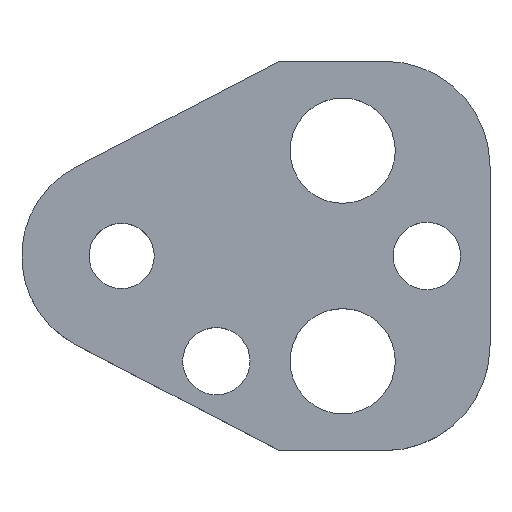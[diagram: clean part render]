
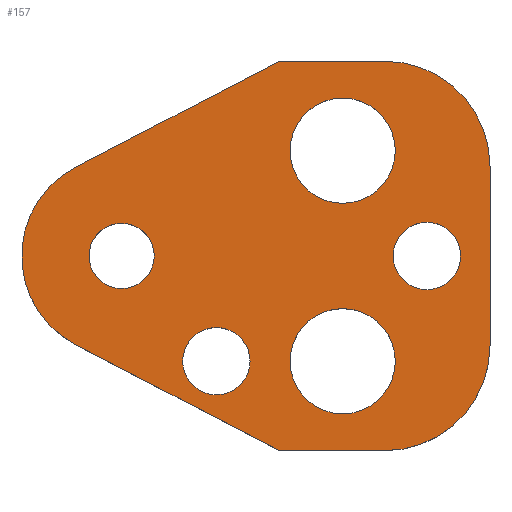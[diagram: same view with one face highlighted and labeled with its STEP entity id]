
A CAD part, top view. The second image highlights one B-rep face of the part: STEP entity #157.
In plain terms, the highlighted planar face has unit normal (0, 0, 1).
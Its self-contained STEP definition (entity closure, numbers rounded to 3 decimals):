
#103=FACE_BOUND('',#207,.T.);
#104=FACE_BOUND('',#208,.T.);
#105=FACE_BOUND('',#209,.T.);
#106=FACE_BOUND('',#210,.T.);
#107=FACE_BOUND('',#211,.T.);
#108=FACE_BOUND('',#212,.T.);
#122=CIRCLE('',#480,10.);
#124=CIRCLE('',#484,10.);
#127=CIRCLE('',#490,9.5);
#138=CIRCLE('',#503,3.2);
#139=CIRCLE('',#504,3.2);
#140=CIRCLE('',#505,5.);
#141=CIRCLE('',#506,5.);
#142=CIRCLE('',#507,5.);
#143=CIRCLE('',#508,5.);
#144=CIRCLE('',#509,3.2);
#145=CIRCLE('',#510,3.2);
#146=CIRCLE('',#511,3.1);
#147=CIRCLE('',#512,3.1);
#157=ADVANCED_FACE('',(#103,#104,#105,#106,#107,#108),#174,.T.);
#174=PLANE('',#513);
#207=EDGE_LOOP('',(#273,#274,#275,#276,#277,#278,#279,#280));
#208=EDGE_LOOP('',(#281,#282));
#209=EDGE_LOOP('',(#283,#284));
#210=EDGE_LOOP('',(#285,#286));
#211=EDGE_LOOP('',(#287,#288));
#212=EDGE_LOOP('',(#289,#290));
#273=ORIENTED_EDGE('',*,*,#368,.T.);
#274=ORIENTED_EDGE('',*,*,#372,.T.);
#275=ORIENTED_EDGE('',*,*,#375,.T.);
#276=ORIENTED_EDGE('',*,*,#378,.T.);
#277=ORIENTED_EDGE('',*,*,#381,.T.);
#278=ORIENTED_EDGE('',*,*,#384,.T.);
#279=ORIENTED_EDGE('',*,*,#387,.T.);
#280=ORIENTED_EDGE('',*,*,#390,.T.);
#281=ORIENTED_EDGE('',*,*,#401,.T.);
#282=ORIENTED_EDGE('',*,*,#402,.T.);
#283=ORIENTED_EDGE('',*,*,#403,.T.);
#284=ORIENTED_EDGE('',*,*,#404,.T.);
#285=ORIENTED_EDGE('',*,*,#405,.T.);
#286=ORIENTED_EDGE('',*,*,#406,.T.);
#287=ORIENTED_EDGE('',*,*,#407,.T.);
#288=ORIENTED_EDGE('',*,*,#408,.T.);
#289=ORIENTED_EDGE('',*,*,#409,.T.);
#290=ORIENTED_EDGE('',*,*,#410,.T.);
#332=VERTEX_POINT('',#649);
#333=VERTEX_POINT('',#651);
#336=VERTEX_POINT('',#658);
#338=VERTEX_POINT('',#664);
#340=VERTEX_POINT('',#670);
#342=VERTEX_POINT('',#676);
#344=VERTEX_POINT('',#682);
#346=VERTEX_POINT('',#688);
#357=VERTEX_POINT('',#717);
#358=VERTEX_POINT('',#718);
#359=VERTEX_POINT('',#721);
#360=VERTEX_POINT('',#722);
#361=VERTEX_POINT('',#725);
#362=VERTEX_POINT('',#726);
#363=VERTEX_POINT('',#729);
#364=VERTEX_POINT('',#730);
#365=VERTEX_POINT('',#733);
#366=VERTEX_POINT('',#734);
#368=EDGE_CURVE('',#333,#332,#422,.T.);
#372=EDGE_CURVE('',#332,#336,#426,.T.);
#375=EDGE_CURVE('',#336,#338,#122,.T.);
#378=EDGE_CURVE('',#338,#340,#430,.T.);
#381=EDGE_CURVE('',#340,#342,#124,.T.);
#384=EDGE_CURVE('',#342,#344,#434,.T.);
#387=EDGE_CURVE('',#344,#346,#437,.T.);
#390=EDGE_CURVE('',#346,#333,#127,.T.);
#401=EDGE_CURVE('',#357,#358,#138,.T.);
#402=EDGE_CURVE('',#358,#357,#139,.T.);
#403=EDGE_CURVE('',#359,#360,#140,.T.);
#404=EDGE_CURVE('',#360,#359,#141,.T.);
#405=EDGE_CURVE('',#361,#362,#142,.T.);
#406=EDGE_CURVE('',#362,#361,#143,.T.);
#407=EDGE_CURVE('',#363,#364,#144,.T.);
#408=EDGE_CURVE('',#364,#363,#145,.T.);
#409=EDGE_CURVE('',#365,#366,#146,.T.);
#410=EDGE_CURVE('',#366,#365,#147,.T.);
#422=LINE('',#650,#450);
#426=LINE('',#659,#454);
#430=LINE('',#671,#458);
#434=LINE('',#683,#462);
#437=LINE('',#689,#465);
#450=VECTOR('',#527,1.);
#454=VECTOR('',#533,1.);
#458=VECTOR('',#545,1.);
#462=VECTOR('',#557,1.);
#465=VECTOR('',#562,1.);
#480=AXIS2_PLACEMENT_3D('',#665,#538,#539);
#484=AXIS2_PLACEMENT_3D('',#677,#550,#551);
#490=AXIS2_PLACEMENT_3D('',#693,#568,#569);
#503=AXIS2_PLACEMENT_3D('',#716,#594,#595);
#504=AXIS2_PLACEMENT_3D('',#719,#596,#597);
#505=AXIS2_PLACEMENT_3D('',#720,#598,#599);
#506=AXIS2_PLACEMENT_3D('',#723,#600,#601);
#507=AXIS2_PLACEMENT_3D('',#724,#602,#603);
#508=AXIS2_PLACEMENT_3D('',#727,#604,#605);
#509=AXIS2_PLACEMENT_3D('',#728,#606,#607);
#510=AXIS2_PLACEMENT_3D('',#731,#608,#609);
#511=AXIS2_PLACEMENT_3D('',#732,#610,#611);
#512=AXIS2_PLACEMENT_3D('',#735,#612,#613);
#513=AXIS2_PLACEMENT_3D('',#736,#614,#615);
#527=DIRECTION('',(0.887,-0.461,0.));
#533=DIRECTION('',(1.,0.,0.));
#538=DIRECTION('',(0.,0.,1.));
#539=DIRECTION('',(-0.707,0.707,0.));
#545=DIRECTION('',(0.,1.,0.));
#550=DIRECTION('',(0.,0.,1.));
#551=DIRECTION('',(-0.707,-0.707,0.));
#557=DIRECTION('',(-1.,0.,0.));
#562=DIRECTION('',(-0.887,-0.461,0.));
#568=DIRECTION('',(0.,0.,1.));
#569=DIRECTION('',(1.,0.,0.));
#594=DIRECTION('',(0.,0.,-1.));
#595=DIRECTION('',(-1.,0.,0.));
#596=DIRECTION('',(0.,0.,-1.));
#597=DIRECTION('',(1.,0.,0.));
#598=DIRECTION('',(0.,0.,-1.));
#599=DIRECTION('',(-1.,0.,0.));
#600=DIRECTION('',(0.,0.,-1.));
#601=DIRECTION('',(1.,0.,0.));
#602=DIRECTION('',(0.,0.,-1.));
#603=DIRECTION('',(-1.,0.,0.));
#604=DIRECTION('',(0.,0.,-1.));
#605=DIRECTION('',(1.,0.,0.));
#606=DIRECTION('',(0.,0.,-1.));
#607=DIRECTION('',(-1.,0.,0.));
#608=DIRECTION('',(0.,0.,-1.));
#609=DIRECTION('',(1.,0.,0.));
#610=DIRECTION('',(0.,0.,-1.));
#611=DIRECTION('',(-1.,0.,0.));
#612=DIRECTION('',(0.,0.,-1.));
#613=DIRECTION('',(1.,0.,0.));
#614=DIRECTION('',(0.,0.,1.));
#615=DIRECTION('',(0.887,-0.461,0.));
#649=CARTESIAN_POINT('',(15.,-18.5,7.));
#650=CARTESIAN_POINT('',(15.,-18.5,7.));
#651=CARTESIAN_POINT('',(-4.38,-8.43,7.));
#658=CARTESIAN_POINT('',(25.,-18.5,7.));
#659=CARTESIAN_POINT('',(15.,-18.5,7.));
#664=CARTESIAN_POINT('',(35.,-8.5,7.));
#665=CARTESIAN_POINT('',(25.,-8.5,7.));
#670=CARTESIAN_POINT('',(35.,8.5,7.));
#671=CARTESIAN_POINT('',(35.,8.5,7.));
#676=CARTESIAN_POINT('',(25.,18.5,7.));
#677=CARTESIAN_POINT('',(25.,8.5,7.));
#682=CARTESIAN_POINT('',(15.,18.5,7.));
#683=CARTESIAN_POINT('',(15.,18.5,7.));
#688=CARTESIAN_POINT('',(-4.38,8.43,7.));
#689=CARTESIAN_POINT('',(15.,18.5,7.));
#693=CARTESIAN_POINT('',(0.,0.,7.));
#716=CARTESIAN_POINT('',(29.,0.,7.));
#717=CARTESIAN_POINT('',(29.,3.2,7.));
#718=CARTESIAN_POINT('',(29.,-3.2,7.));
#719=CARTESIAN_POINT('',(29.,0.,7.));
#720=CARTESIAN_POINT('',(21.,10.,7.));
#721=CARTESIAN_POINT('',(21.,15.,7.));
#722=CARTESIAN_POINT('',(21.,5.,7.));
#723=CARTESIAN_POINT('',(21.,10.,7.));
#724=CARTESIAN_POINT('',(21.,-10.,7.));
#725=CARTESIAN_POINT('',(21.,-5.,7.));
#726=CARTESIAN_POINT('',(21.,-15.,7.));
#727=CARTESIAN_POINT('',(21.,-10.,7.));
#728=CARTESIAN_POINT('',(9.,-10.,7.));
#729=CARTESIAN_POINT('',(9.,-6.8,7.));
#730=CARTESIAN_POINT('',(9.,-13.2,7.));
#731=CARTESIAN_POINT('',(9.,-10.,7.));
#732=CARTESIAN_POINT('',(0.,0.,7.));
#733=CARTESIAN_POINT('',(0.,3.1,7.));
#734=CARTESIAN_POINT('',(0.,-3.1,7.));
#735=CARTESIAN_POINT('',(0.,0.,7.));
#736=CARTESIAN_POINT('',(-4.38,-8.43,7.));
